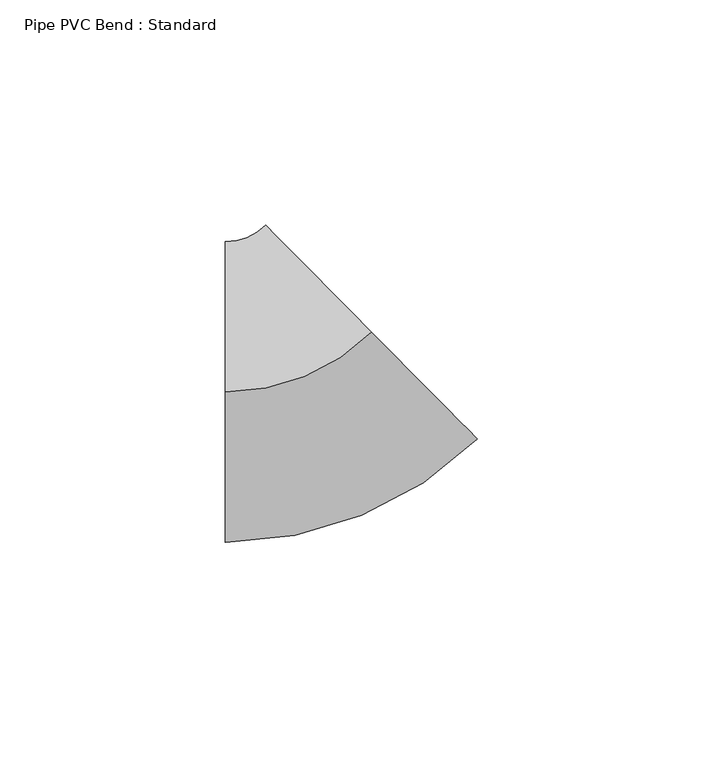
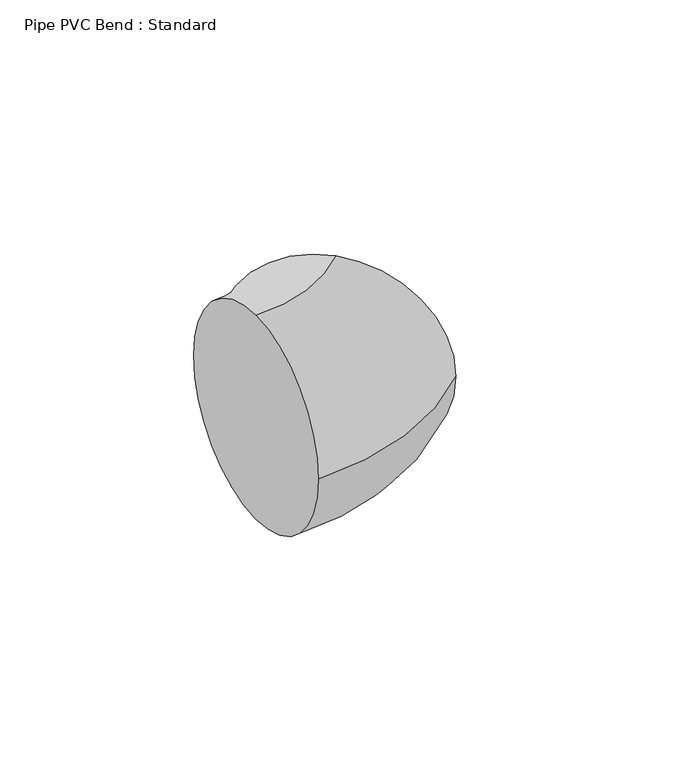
"""IFC4 building model written with IfcOpenShell, lengths in millimetres: pipe fitting geometry, Pipe PVC Bend : Standard."""

from ifc_helpers import new_model, si_unit, point, frame, origin, place, context, project, spatial, circle_curve, ellipse_curve, trimmed, source, transform, mapped, element, save
from ifc_brep_helpers import plane_surface, revolved_surface, advanced_brep


def pipe_pvc_bend_standard_c0176095(model_context):
    return source(origin(), model_context, "Body", "AdvancedBrep", [
        advanced_brep(
        [(-18.9290615, 0.0, 33.3375), (-18.9290615, 33.3375, 0.0), (-18.9290615, 0.0, -33.3375), (-18.9290615, -33.3375, 0.0), (13.4543925, 13.31498, 33.3375), (36.9044798, -10.3806379, 0.0), (13.4543925, 13.31498, -33.3375), (-9.9956949, 37.0105979, 0.0)],
        [
            (0, 1, circle_curve(frame((-18.9290615, 0.0, 0.0), z_axis=(-1.0, 0.0, 0.0), x_axis=(0.0, 1.0, 0.0)), 33.3375)),
            (1, 2, circle_curve(frame((-18.9290615, 0.0, 0.0), z_axis=(-1.0, 0.0, 0.0), x_axis=(0.0, 1.0, 0.0)), 33.3375)),
            (2, 3, circle_curve(frame((-18.9290615, 0.0, 0.0), z_axis=(-1.0, 0.0, 0.0), x_axis=(0.0, 1.0, 0.0)), 33.3375)),
            (3, 0, circle_curve(frame((-18.9290615, 0.0, 0.0), z_axis=(-1.0, 0.0, 0.0), x_axis=(0.0, 1.0, 0.0)), 33.3375)),
            (4, 5, circle_curve(frame((13.4543925, 13.31498, 0.0), z_axis=(0.7107796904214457, 0.7034146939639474, 0.0), x_axis=(-0.7034146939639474, 0.7107796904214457, 0.0)), 33.3375)),
            (5, 6, circle_curve(frame((13.4543925, 13.31498, 0.0), z_axis=(0.7107796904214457, 0.7034146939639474, 0.0), x_axis=(-0.7034146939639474, 0.7107796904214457, 0.0)), 33.3375)),
            (6, 7, circle_curve(frame((13.4543925, 13.31498, 0.0), z_axis=(0.7107796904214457, 0.7034146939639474, 0.0), x_axis=(-0.7034146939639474, 0.7107796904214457, 0.0)), 33.3375)),
            (7, 4, circle_curve(frame((13.4543925, 13.31498, 0.0), z_axis=(0.7107796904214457, 0.7034146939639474, 0.0), x_axis=(-0.7034146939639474, 0.7107796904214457, 0.0)), 33.3375)),
            (7, 1, circle_curve(frame((-18.9290615, 46.0375, 0.0), z_axis=(0.0, 0.0, -1.0), x_axis=(0.0, -1.0, 0.0)), 12.7)),
            (0, 4, circle_curve(frame((-18.9290615, 46.0375, 33.3375), z_axis=(0.0, 0.0, 1.0), x_axis=(0.0, -1.0, 0.0)), 46.0375)),
            (6, 2, circle_curve(frame((-18.9290615, 46.0375, -33.3375), z_axis=(0.0, 0.0, -1.0), x_axis=(0.0, -1.0, 0.0)), 46.0375)),
            (5, 3, circle_curve(frame((-18.9290615, 46.0375, 0.0), z_axis=(0.0, 0.0, -1.0), x_axis=(0.0, -1.0, 0.0)), 79.375)),
        ],
        [
            plane_surface(frame((-18.9290615, 0.0, 0.0), z_axis=(-1.0, 0.0, 0.0), x_axis=(0.0, 0.0, 1.0))),
            plane_surface(frame((13.4543925, 13.31498, 0.0), z_axis=(0.7107796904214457, 0.7034146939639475, 0.0), x_axis=(0.0, 0.0, 1.0))),
            revolved_surface(trimmed(ellipse_curve(frame((-18.9290615, 0.0, 0.0), z_axis=(-1.0, 0.0, 0.0), x_axis=(0.0, 1.0, 0.0)), 33.3375, 33.3375), [point((-18.9290615, 0.0, 33.3375))], [point((-18.9290615, 33.3375, 0.0))], True, "CARTESIAN"), (-18.9290615, 46.0375, 0.0), (0.0, 0.0, 1.0)),
            revolved_surface(trimmed(ellipse_curve(frame((-18.9290615, 0.0, 0.0), z_axis=(-1.0, 0.0, 0.0), x_axis=(0.0, 1.0, 0.0)), 33.3375, 33.3375), [point((-18.9290615, 33.3375, 0.0))], [point((-18.9290615, 0.0, -33.3375))], True, "CARTESIAN"), (-18.9290615, 46.0375, 0.0), (0.0, 0.0, 1.0)),
            revolved_surface(trimmed(ellipse_curve(frame((-18.9290615, 0.0, 0.0), z_axis=(-1.0, 0.0, 0.0), x_axis=(0.0, 1.0, 0.0)), 33.3375, 33.3375), [point((-18.9290615, 0.0, -33.3375))], [point((-18.9290615, -33.3375, 0.0))], True, "CARTESIAN"), (-18.9290615, 46.0375, 0.0), (0.0, 0.0, 1.0)),
            revolved_surface(trimmed(ellipse_curve(frame((-18.9290615, 0.0, 0.0), z_axis=(-1.0, 0.0, 0.0), x_axis=(0.0, 1.0, 0.0)), 33.3375, 33.3375), [point((-18.9290615, -33.3375, 0.0))], [point((-18.9290615, 0.0, 33.3375))], True, "CARTESIAN"), (-18.9290615, 46.0375, 0.0), (0.0, 0.0, 1.0)),
        ],
        [
            (0, [[1, 2, 3, 4]]),
            (1, [[5, 6, 7, 8]]),
            (2, [[9, -1, 10, -8]]),
            (3, [[11, -2, -9, -7]]),
            (4, [[12, -3, -11, -6]]),
            (5, [[-10, -4, -12, -5]]),
        ],
    ),
        advanced_brep(
        [(-18.9290615, 0.0, 33.3375), (-18.9290615, 33.3375, 0.0), (-18.9290615, 0.0, -33.3375), (-18.9290615, -33.3375, 0.0), (13.4543925, 13.31498, 33.3375), (36.9044798, -10.3806379, 0.0), (13.4543925, 13.31498, -33.3375), (-9.9956949, 37.0105979, 0.0)],
        [
            (0, 1, circle_curve(frame((-18.9290615, 0.0, 0.0), z_axis=(-1.0, 0.0, 0.0), x_axis=(0.0, 1.0, 0.0)), 33.3375)),
            (1, 2, circle_curve(frame((-18.9290615, 0.0, 0.0), z_axis=(-1.0, 0.0, 0.0), x_axis=(0.0, 1.0, 0.0)), 33.3375)),
            (2, 3, circle_curve(frame((-18.9290615, 0.0, 0.0), z_axis=(-1.0, 0.0, 0.0), x_axis=(0.0, 1.0, 0.0)), 33.3375)),
            (3, 0, circle_curve(frame((-18.9290615, 0.0, 0.0), z_axis=(-1.0, 0.0, 0.0), x_axis=(0.0, 1.0, 0.0)), 33.3375)),
            (4, 5, circle_curve(frame((13.4543925, 13.31498, 0.0), z_axis=(0.7107796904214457, 0.7034146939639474, 0.0), x_axis=(-0.7034146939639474, 0.7107796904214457, 0.0)), 33.3375)),
            (5, 6, circle_curve(frame((13.4543925, 13.31498, 0.0), z_axis=(0.7107796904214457, 0.7034146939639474, 0.0), x_axis=(-0.7034146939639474, 0.7107796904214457, 0.0)), 33.3375)),
            (6, 7, circle_curve(frame((13.4543925, 13.31498, 0.0), z_axis=(0.7107796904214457, 0.7034146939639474, 0.0), x_axis=(-0.7034146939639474, 0.7107796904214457, 0.0)), 33.3375)),
            (7, 4, circle_curve(frame((13.4543925, 13.31498, 0.0), z_axis=(0.7107796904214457, 0.7034146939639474, 0.0), x_axis=(-0.7034146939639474, 0.7107796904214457, 0.0)), 33.3375)),
            (7, 1, circle_curve(frame((-18.9290615, 46.0375, 0.0), z_axis=(0.0, 0.0, -1.0), x_axis=(0.0, -1.0, 0.0)), 12.7)),
            (0, 4, circle_curve(frame((-18.9290615, 46.0375, 33.3375), z_axis=(0.0, 0.0, 1.0), x_axis=(0.0, -1.0, 0.0)), 46.0375)),
            (6, 2, circle_curve(frame((-18.9290615, 46.0375, -33.3375), z_axis=(0.0, 0.0, -1.0), x_axis=(0.0, -1.0, 0.0)), 46.0375)),
            (5, 3, circle_curve(frame((-18.9290615, 46.0375, 0.0), z_axis=(0.0, 0.0, -1.0), x_axis=(0.0, -1.0, 0.0)), 79.375)),
        ],
        [
            plane_surface(frame((-18.9290615, 0.0, 0.0), z_axis=(-1.0, 0.0, 0.0), x_axis=(0.0, 0.0, 1.0))),
            plane_surface(frame((13.4543925, 13.31498, 0.0), z_axis=(0.7107796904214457, 0.7034146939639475, 0.0), x_axis=(0.0, 0.0, 1.0))),
            revolved_surface(trimmed(ellipse_curve(frame((-18.9290615, 0.0, 0.0), z_axis=(-1.0, 0.0, 0.0), x_axis=(0.0, 1.0, 0.0)), 33.3375, 33.3375), [point((-18.9290615, 0.0, 33.3375))], [point((-18.9290615, 33.3375, 0.0))], True, "CARTESIAN"), (-18.9290615, 46.0375, 0.0), (0.0, 0.0, 1.0)),
            revolved_surface(trimmed(ellipse_curve(frame((-18.9290615, 0.0, 0.0), z_axis=(-1.0, 0.0, 0.0), x_axis=(0.0, 1.0, 0.0)), 33.3375, 33.3375), [point((-18.9290615, 33.3375, 0.0))], [point((-18.9290615, 0.0, -33.3375))], True, "CARTESIAN"), (-18.9290615, 46.0375, 0.0), (0.0, 0.0, 1.0)),
            revolved_surface(trimmed(ellipse_curve(frame((-18.9290615, 0.0, 0.0), z_axis=(-1.0, 0.0, 0.0), x_axis=(0.0, 1.0, 0.0)), 33.3375, 33.3375), [point((-18.9290615, 0.0, -33.3375))], [point((-18.9290615, -33.3375, 0.0))], True, "CARTESIAN"), (-18.9290615, 46.0375, 0.0), (0.0, 0.0, 1.0)),
            revolved_surface(trimmed(ellipse_curve(frame((-18.9290615, 0.0, 0.0), z_axis=(-1.0, 0.0, 0.0), x_axis=(0.0, 1.0, 0.0)), 33.3375, 33.3375), [point((-18.9290615, -33.3375, 0.0))], [point((-18.9290615, 0.0, 33.3375))], True, "CARTESIAN"), (-18.9290615, 46.0375, 0.0), (0.0, 0.0, 1.0)),
        ],
        [
            (0, [[1, 2, 3, 4]]),
            (1, [[5, 6, 7, 8]]),
            (2, [[9, -1, 10, -8]]),
            (3, [[11, -2, -9, -7]]),
            (4, [[12, -3, -11, -6]]),
            (5, [[-10, -4, -12, -5]]),
        ],
    ),
    ])


if __name__ == "__main__":
    model = new_model("IFC4")
    model_context = context("Model", 3, world=origin())
    ifc_project = project(units=[si_unit("LENGTHUNIT", "METRE", prefix="MILLI")], contexts=[model_context])
    site = spatial("IfcSite", under=ifc_project)
    building = spatial("IfcBuilding", under=site)
    placement = place(None, origin())
    pipe_pvc_bend_standard_shape = pipe_pvc_bend_standard_c0176095(model_context)
    element("IfcPipeFitting", 1, ObjectType="Pipe PVC Bend : Standard", at=placement, inside=building, context=model_context, shape_type="MappedRepresentation", body=[
        mapped(pipe_pvc_bend_standard_shape, transform((0.0, 0.0, 0.0), x_axis=(1.0, 0.0, 0.0), y_axis=(0.0, 1.0, 0.0), z_axis=(0.0, 0.0, 1.0))),
    ])
    save(model, "model.ifc")
